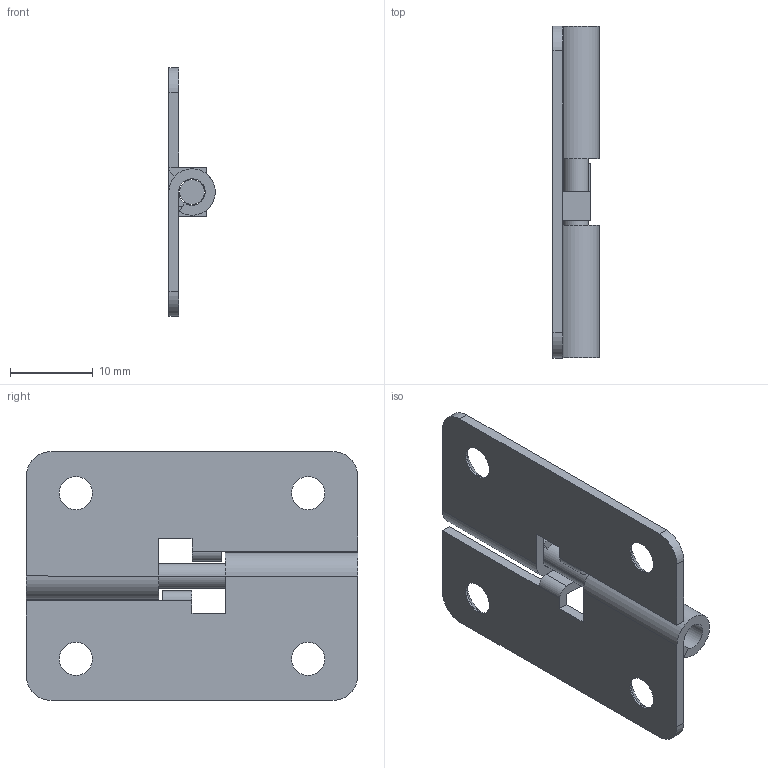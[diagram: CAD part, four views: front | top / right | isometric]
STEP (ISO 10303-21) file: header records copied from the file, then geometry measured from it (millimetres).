
FILE_DESCRIPTION (( 'STEP AP203' ), '1' );
FILE_NAME ('DEH-45-2L.STEP', '2013-08-29T06:30:06', ( '中村　妙子' ), ( 'ＮＴ設計' ), 'SwSTEP 2.0', 'SolidWorks 2002296', '' );
FILE_SCHEMA (( 'CONFIG_CONTROL_DESIGN' ));
Length unit declared in the file: millimetre
Products named in the file (3): DEH-45-2L; DEH-45-2L-1_蹬怮椔; DEH-45-2L-2_蹬怮椔
Assembly tree (2 placements, depth 2):
  DEH-45-2L
    DEH-45-2L-2_蹬怮椔
    DEH-45-2L-1_蹬怮椔
Bounding box: 5.59 x 40 x 30 mm (x, y, z)
Volume: 1772.6 mm3; surface area: 3349.4 mm2
Topology: 3 solids, 3 shells, 60 faces, 148 edges, 94 vertices
Faces by surface type: plane 30, cylinder 20, cone 10
Entity records: 2089 total; most frequent: DIRECTION 328, CARTESIAN_POINT 307, ORIENTED_EDGE 296, EDGE_CURVE 148, AXIS2_PLACEMENT_3D 115, LINE 98, VECTOR 98, VERTEX_POINT 94
